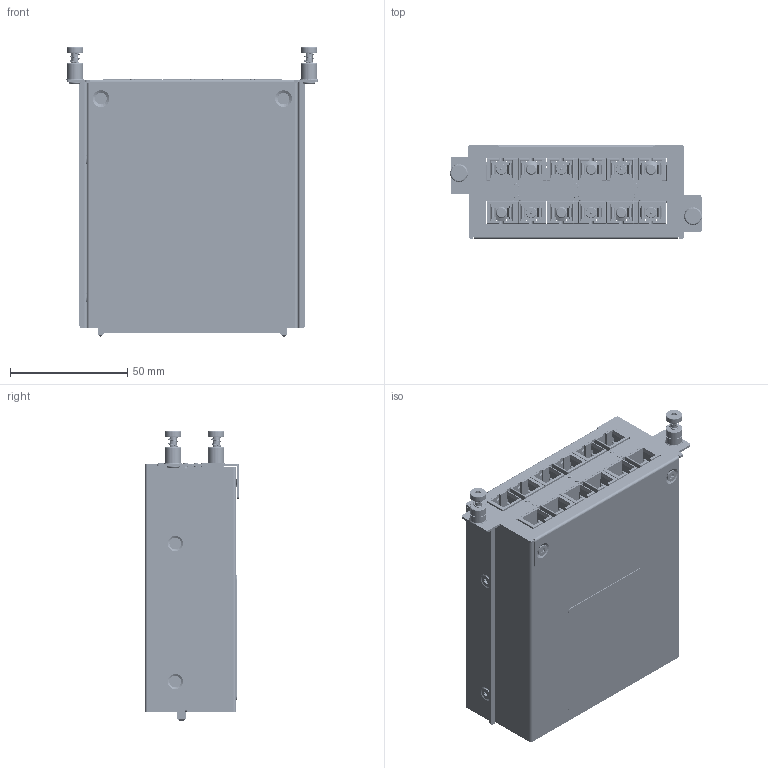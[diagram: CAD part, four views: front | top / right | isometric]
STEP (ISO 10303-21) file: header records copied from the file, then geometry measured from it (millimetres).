
FILE_DESCRIPTION((''),'2;1');
FILE_NAME('RM_4000_6MSC_SW0001','2022-06-19T15:56:33',('VicWM_Chen'),('PTC'),'CREO PARAMETRIC BY PTC INC, 2018020','CREO PARAMETRIC BY PTC INC, 2018020','');
FILE_SCHEMA(('AUTOMOTIVE_DESIGN { 1 0 10303 214 1 1 1 1 }'));
Products named in the file (1): RM_4000_6MSC_SW0001
Bounding box: 107.6 x 40.1 x 123.8 mm (x, y, z)
Volume: 99155.7 mm3; surface area: 167800.4 mm2
Topology: 1 solids, 1 shells, 13995 faces, 39691 edges, 25871 vertices
Faces by surface type: plane 9148, cylinder 3941, torus 446, cone 360, sphere 64, bspline 36
Entity records: 545208 total; most frequent: CARTESIAN_POINT 134432, ORIENTED_EDGE 79254, DIRECTION 74298, EDGE_CURVE 39627, VECTOR 30588, LINE 30588, VERTEX_POINT 25871, AXIS2_PLACEMENT_3D 21855
